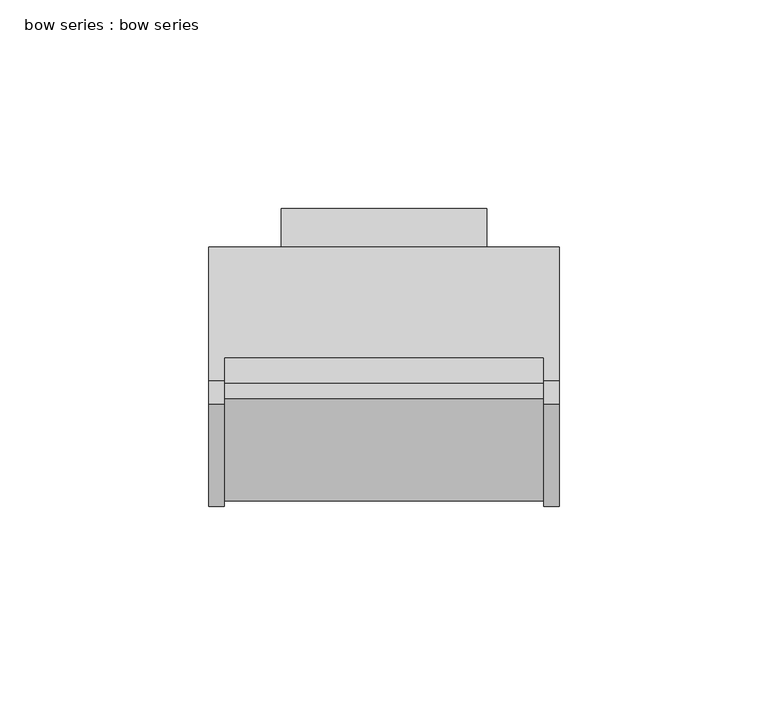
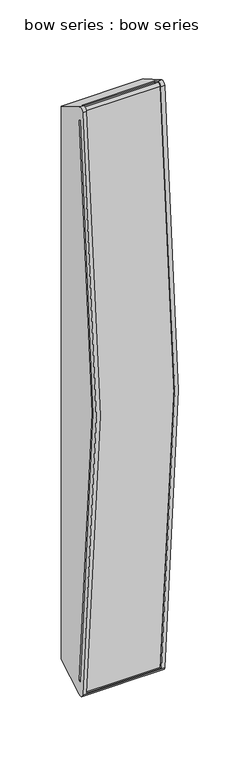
"""IFC4 building model written with IfcOpenShell, lengths in millimetres: light fixture geometry, bow series : bow series."""

import ifcopenshell
import ifcopenshell.guid

model = None  # the IFC model being written
_history = None  # IfcOwnerHistory: only IFC2X3 demands one
_inside = {}  # id of a spatial element -> (the spatial element, [elements in it])
_under = {}  # id of a project, library or spatial element -> (it, [spatial elements below it])
_declared = {}  # id of a project -> (the project, [libraries it declares])
_typed = {}  # id of a type object -> (the type object, [elements of that type])
_made_of = {}  # id of a material, layer set ... -> (it, [elements and type objects made of it])


def new_model(schema):
    """Start an empty IFC model of exactly this schema.

    Asked for "IFC4X3", IfcOpenShell would pick the latest addendum, in which some entities
    have other attributes; the version numbers below select the first issue.
    IFC2X3 requires an IfcOwnerHistory on every rooted entity: one is made here for all.
    """
    global model, _history
    if schema == "IFC4X3":
        model = ifcopenshell.file(schema_version=(4, 3, 0, 0))
    else:
        model = ifcopenshell.file(schema=schema)
    _inside.clear()
    _under.clear()
    _declared.clear()
    _typed.clear()
    _made_of.clear()
    _history = None
    if model.schema == "IFC2X3":
        org = make("IfcOrganization", Name="unknown")
        user = make(
            "IfcPersonAndOrganization",
            ThePerson=make("IfcPerson", FamilyName="unknown"),
            TheOrganization=org,
        )
        app = make(
            "IfcApplication",
            ApplicationDeveloper=org,
            Version="unknown",
            ApplicationFullName="unknown",
            ApplicationIdentifier="unknown",
        )
        _history = make(
            "IfcOwnerHistory",
            OwningUser=user,
            OwningApplication=app,
            ChangeAction="ADDED",
            CreationDate=0,
        )
    return model


def make(cls, **values):
    """One entity of the class cls with the attributes given. An attribute that is None is left unset."""
    return model.create_entity(
        cls, **{name: value for name, value in values.items() if value is not None}
    )


def rooted(cls, **values):
    """An entity with a GlobalId (a new one), such as an element, a storey or a relation."""
    return make(cls, GlobalId=ifcopenshell.guid.new(), OwnerHistory=_history, **values)


def si_unit(unit_type, name, prefix=None):
    """IfcSIUnit, for example si_unit("LENGTHUNIT", "METRE", prefix="MILLI")."""
    return make("IfcSIUnit", UnitType=unit_type, Prefix=prefix, Name=name)


def assignment(units):
    """IfcUnitAssignment: the units of a project."""
    return None if units is None else make("IfcUnitAssignment", Units=units)


def point(xyz):
    """IfcCartesianPoint."""
    return None if xyz is None else make("IfcCartesianPoint", Coordinates=xyz)


def direction(xyz):
    """IfcDirection."""
    return None if xyz is None else make("IfcDirection", DirectionRatios=xyz)


def frame(location, z_axis=None, x_axis=None):
    """IfcAxis2Placement3D, a coordinate frame: its origin and axes. An axis left out is left unset."""
    return make(
        "IfcAxis2Placement3D",
        Location=point(location),
        Axis=direction(z_axis),
        RefDirection=direction(x_axis),
    )


def frame_2d(location, x_axis=None):
    """IfcAxis2Placement2D, a coordinate frame in the plane: its origin and x axis."""
    return make(
        "IfcAxis2Placement2D", Location=point(location), RefDirection=direction(x_axis)
    )


def origin():
    """The frame at (0, 0, 0) with its axes left unset."""
    return frame((0.0, 0.0, 0.0))


def place(relative_to, where):
    """IfcLocalPlacement: puts the frame where relative to a parent placement (None: the world)."""
    return make(
        "IfcLocalPlacement", PlacementRelTo=relative_to, RelativePlacement=where
    )


def context(
    kind, dimensions, precision=None, world=None, true_north=None, identifier=None
):
    """IfcGeometricRepresentationContext, for example the 3D "Model" context."""
    return make(
        "IfcGeometricRepresentationContext",
        ContextIdentifier=identifier,
        ContextType=kind,
        CoordinateSpaceDimension=dimensions,
        Precision=precision,
        WorldCoordinateSystem=world,
        TrueNorth=true_north,
    )


def project(units=None, contexts=None):
    """IfcProject with its units and contexts."""
    return rooted(
        "IfcProject",
        Name="project",
        RepresentationContexts=contexts,
        UnitsInContext=assignment(units),
    )


def spatial(cls, under=None, at=None, **own):
    """A site, building, storey or space (cls), placed at a placement, below another one or the project."""
    s = rooted(cls, ObjectPlacement=at, **own)
    if under is not None:
        _under.setdefault(under.id(), (under, []))[1].append(s)
    return s


def polyline(points):
    """IfcPolyline through the points."""
    return make("IfcPolyline", Points=[point(p) for p in points])


def circle_curve(where, radius):
    """IfcCircle in the frame where."""
    return make("IfcCircle", Position=where, Radius=radius)


def trimmed(basis, trim1, trim2, sense, master):
    """IfcTrimmedCurve: the piece of a basis curve between two trims."""
    return make(
        "IfcTrimmedCurve",
        BasisCurve=basis,
        Trim1=trim1,
        Trim2=trim2,
        SenseAgreement=sense,
        MasterRepresentation=master,
    )


def segment(curve, same_sense, transition):
    """IfcCompositeCurveSegment."""
    return make(
        "IfcCompositeCurveSegment",
        Transition=transition,
        SameSense=same_sense,
        ParentCurve=curve,
    )


def composite_curve(segments, self_intersect=None):
    """IfcCompositeCurve: segments joined end to end."""
    return make("IfcCompositeCurve", Segments=segments, SelfIntersect=self_intersect)


def outline(outer, holes=None, kind="AREA"):
    """IfcArbitraryClosedProfileDef: a profile drawn as a closed curve; with holes, ...WithVoids."""
    if holes is None:
        return make("IfcArbitraryClosedProfileDef", ProfileType=kind, OuterCurve=outer)
    return make(
        "IfcArbitraryProfileDefWithVoids",
        ProfileType=kind,
        OuterCurve=outer,
        InnerCurves=holes,
    )


def extrude(swept, where, along, depth):
    """IfcExtrudedAreaSolid: the profile swept, set in the frame where, extruded along a direction by depth."""
    return make(
        "IfcExtrudedAreaSolid",
        SweptArea=swept,
        Position=where,
        ExtrudedDirection=direction(along),
        Depth=depth,
    )


def shape(context_of_items, identifier, shape_type, items):
    """IfcShapeRepresentation: the items that make up one representation, for example the "Body"."""
    return make(
        "IfcShapeRepresentation",
        ContextOfItems=context_of_items,
        RepresentationIdentifier=identifier,
        RepresentationType=shape_type,
        Items=items,
    )


def source(mapping_origin, context_of_items, identifier, shape_type, items):
    """IfcRepresentationMap: a shape defined once, which mapped items show again and again."""
    return make(
        "IfcRepresentationMap",
        MappingOrigin=mapping_origin,
        MappedRepresentation=shape(context_of_items, identifier, shape_type, items),
    )


def transform(
    local_origin,
    x_axis=None,
    y_axis=None,
    z_axis=None,
    scale=None,
    scale2=None,
    scale3=None,
    uniform=True,
):
    """IfcCartesianTransformationOperator3D, or its non-uniform kind. x_axis, y_axis, z_axis: its Axis1, 2, 3."""
    if uniform:
        return make(
            "IfcCartesianTransformationOperator3D",
            Axis1=direction(x_axis),
            Axis2=direction(y_axis),
            LocalOrigin=point(local_origin),
            Scale=scale,
            Axis3=direction(z_axis),
        )
    return make(
        "IfcCartesianTransformationOperator3DnonUniform",
        Axis1=direction(x_axis),
        Axis2=direction(y_axis),
        LocalOrigin=point(local_origin),
        Scale=scale,
        Axis3=direction(z_axis),
        Scale2=scale2,
        Scale3=scale3,
    )


def mapped(mapping_source, mapping_target):
    """IfcMappedItem: shows the shape of a source again, moved by a transform."""
    return make(
        "IfcMappedItem", MappingSource=mapping_source, MappingTarget=mapping_target
    )


def made_of(thing, what):
    """Note that an element or type object is made of a material, layer set ...; save() writes the relation."""
    if what is not None:
        _made_of.setdefault(what.id(), (what, []))[1].append(thing)
    return thing


def element(
    cls,
    number,
    at=None,
    inside=None,
    cuts=None,
    type_object=None,
    material=None,
    context=None,
    identifier="Body",
    shape_type=None,
    held_by="IfcProductDefinitionShape",
    body=None,
    shapes=None,
    **own,
):
    """One element of the class cls, such as IfcWall. Its Tag is "e" and its number.

    at: its placement. inside: the storey or other place that contains it. cuts: it is an
    opening in that element (IfcRelVoidsElement). A single representation is given by context,
    identifier, shape_type and body (its items); several are given by shapes. held_by: the class
    of the entity that holds the representations. save() writes the other relations.
    """
    e = rooted(cls, Tag="e%d" % number, ObjectPlacement=at, **own)
    if body is not None:
        shapes = [shape(context, identifier, shape_type, body)]
    if shapes is not None:
        e.Representation = make(held_by, Representations=shapes)
    if inside is not None:
        _inside.setdefault(inside.id(), (inside, []))[1].append(e)
    if cuts is not None:
        rooted(
            "IfcRelVoidsElement", RelatingBuildingElement=cuts, RelatedOpeningElement=e
        )
    if type_object is not None:
        _typed.setdefault(type_object.id(), (type_object, []))[1].append(e)
    return made_of(e, material)


def aggregate(whole, parts):
    """IfcRelAggregates: a whole, such as a stair, and the parts it consists of."""
    return rooted("IfcRelAggregates", RelatingObject=whole, RelatedObjects=parts)


def save(model, path):
    """Write the relations noted so far, then the file.

    IfcRelAggregates (storeys below a building ...), IfcRelContainedInSpatialStructure (elements
    in a storey), IfcRelDefinesByType, IfcRelAssociatesMaterial and IfcRelDeclares: one each for
    every whole, place, type object, material and project.
    """
    for whole, parts in _under.values():
        aggregate(whole, parts)
    for where, things in _inside.values():
        rooted(
            "IfcRelContainedInSpatialStructure",
            RelatedElements=things,
            RelatingStructure=where,
        )
    for kind, things in _typed.values():
        rooted("IfcRelDefinesByType", RelatedObjects=things, RelatingType=kind)
    for what, things in _made_of.values():
        rooted("IfcRelAssociatesMaterial", RelatedObjects=things, RelatingMaterial=what)
    for by, libraries in _declared.values():
        rooted("IfcRelDeclares", RelatingContext=by, RelatedDefinitions=libraries)
    model.write(path)


def plane_surface(at):
    """IfcPlane: the flat surface through the origin of the frame at, square to its z axis."""
    return make("IfcPlane", Position=at)


def cylinder_surface(at, radius):
    """IfcCylindricalSurface: all points at the distance radius from the z axis of the frame at."""
    return make("IfcCylindricalSurface", Position=at, Radius=radius)


def revolved_surface(curve, axis_point, axis_direction):
    """IfcSurfaceOfRevolution: the curve turned about the line through axis_point along axis_direction."""
    return make(
        "IfcSurfaceOfRevolution",
        SweptCurve=make("IfcArbitraryOpenProfileDef", ProfileType="CURVE", Curve=curve),
        AxisPosition=make("IfcAxis1Placement", Location=point(axis_point), Axis=direction(axis_direction)),
    )


def advanced_brep(points, edges, surfaces, faces):
    """IfcAdvancedBrep: a solid bounded by faces that lie on surfaces and meet in shared edges.

    An edge is (start, end): straight between two places in points (the first is 0);
    or (start, end, curve); or (start, end, curve, False) where it runs against its curve.
    A face is (place in surfaces, loops), or (place, loops, False) where it looks against
    its surface's normal. A loop lists edges by number (the first is 1), with a minus sign
    where the edge is run from its end to its start. The first loop is the outer one.
    """
    corners = [point(p) for p in points]
    vertices = [make("IfcVertexPoint", VertexGeometry=c) for c in corners]
    made = []
    for start, end, *more in edges:
        made.append(
            make(
                "IfcEdgeCurve",
                EdgeStart=vertices[start],
                EdgeEnd=vertices[end],
                EdgeGeometry=more[0] if more else make("IfcPolyline", Points=[corners[start], corners[end]]),
                SameSense=more[1] if len(more) > 1 else True,
            )
        )
    hull = []
    for where, loops, *sense in faces:
        bounds = []
        for j, loop in enumerate(loops):
            ring = [make("IfcOrientedEdge", EdgeElement=made[abs(k) - 1], Orientation=k > 0) for k in loop]
            bounds.append(
                make(
                    "IfcFaceOuterBound" if j == 0 else "IfcFaceBound",
                    Bound=make("IfcEdgeLoop", EdgeList=ring),
                    Orientation=True,
                )
            )
        hull.append(make("IfcAdvancedFace", Bounds=bounds, FaceSurface=surfaces[where], SameSense=sense[0] if sense else True))
    return make("IfcAdvancedBrep", Outer=make("IfcClosedShell", CfsFaces=hull))


def bow_series_bow_series_fd234733(model_context):
    return source(origin(), model_context, "Body", "SolidModel", [
        advanced_brep(
        [(42.0751, -11.1897354, 3.2218824), (42.0751, -5.5204004, 0.5104432), (42.0751, 26.4804679, 18.9861531), (42.0751, 26.4804679, 619.4369441), (42.0751, -5.5204004, 637.912654), (42.0751, -11.1897354, 635.2012148), (42.0751, -6.5132038, 623.8211525), (42.0751, -5.1339014, 623.0248118), (42.0751, -5.1339014, 15.3982854), (42.0751, -6.5132038, 14.6019447), (-42.0751, -11.1897354, 3.2218824), (-42.0751, -11.1897354, 635.2012148), (-42.0751, -5.5204004, 637.912654), (-42.0751, 26.4804679, 619.4369441), (-42.0751, 26.4804679, 18.9861531), (-42.0751, -5.5204004, 0.5104432), (-42.0751, -6.5132038, 623.8211525), (-42.0751, -6.5132038, 14.6019447), (-42.0751, -5.1339014, 15.3982854), (-42.0751, -5.1339014, 623.0248118), (-38.2651, -5.5204004, 637.912654), (-38.2651, 0.0, 634.7254494), (38.2651, 0.0, 634.7254494), (38.2651, -5.5204004, 637.912654), (38.2651, -11.1897354, 635.2012148), (-38.2651, -11.1897354, 635.2012148), (38.2651, -11.3328641, 4.1393634), (-38.2651, -11.3328641, 4.1393634), (38.2651, -6.5132038, 623.8211525), (38.2651, -5.1339014, 623.0248118), (-38.2651, -5.1339014, 623.0248118), (-38.2651, -6.5132038, 623.8211525), (38.2651, -5.1339014, 15.3982854), (-38.2651, -5.1339014, 15.3982854), (38.2651, -6.5132038, 14.6019447), (-38.2651, -6.5132038, 14.6019447), (38.2651, 20.1304679, 18.2529183), (38.2651, 0.0, 6.6305873), (38.2651, 0.0, 4.1393634), (38.2651, 0.0, 631.79251), (38.2651, 20.1304679, 620.1701789), (-38.2651, 20.1304679, 18.2529183), (-38.2651, 20.1304679, 620.1701789), (-38.2651, 0.0, 631.79251), (-38.2651, 0.0, 4.1393634), (-38.2651, 0.0, 6.6305873)],
        [
            (0, 1, circle_curve(frame((42.0751, -7.4254004, 3.81), z_axis=(1.0, 0.0, 0.0), x_axis=(0.0, 1.0, 0.0)), 3.81)),
            (1, 2),
            (2, 3),
            (3, 4),
            (4, 5, circle_curve(frame((42.0751, -7.4254004, 634.6130972), z_axis=(1.0, 0.0, 0.0), x_axis=(0.0, 1.0, 0.0)), 3.81)),
            (5, 0, circle_curve(frame((42.0751, 2011.3497016, 319.2115486), z_axis=(1.0, 0.0, 0.0), x_axis=(0.0, 1.0, 0.0)), 2047.0748016)),
            (6, 7),
            (7, 8, circle_curve(frame((42.0751, 2008.9960373, 319.2115486), z_axis=(1.0, 0.0, 0.0), x_axis=(0.0, 1.0, 0.0)), 2036.9148016)),
            (8, 9),
            (9, 6, circle_curve(frame((42.0751, 2011.3497016, 319.2115486), z_axis=(-1.0, 0.0, 0.0), x_axis=(0.0, 1.0, 0.0)), 2040.7248016)),
            (10, 11, circle_curve(frame((-42.0751, 2011.3497016, 319.2115486), z_axis=(-1.0, 0.0, 0.0), x_axis=(0.0, 1.0, 0.0)), 2047.0748016)),
            (11, 12, circle_curve(frame((-42.0751, -7.4254004, 634.6130972), z_axis=(-1.0, 0.0, 0.0), x_axis=(0.0, 1.0, 0.0)), 3.81)),
            (12, 13),
            (13, 14),
            (14, 15),
            (15, 10, circle_curve(frame((-42.0751, -7.4254004, 3.81), z_axis=(-1.0, 0.0, 0.0), x_axis=(0.0, 1.0, 0.0)), 3.81)),
            (16, 17, circle_curve(frame((-42.0751, 2011.3497016, 319.2115486), z_axis=(1.0, 0.0, 0.0), x_axis=(0.0, 1.0, 0.0)), 2040.7248016)),
            (17, 18),
            (18, 19, circle_curve(frame((-42.0751, 2008.9960373, 319.2115486), z_axis=(-1.0, 0.0, 0.0), x_axis=(0.0, 1.0, 0.0)), 2036.9148016)),
            (19, 16),
            (0, 10),
            (15, 1),
            (14, 2),
            (13, 3),
            (12, 20),
            (20, 21),
            (21, 22),
            (22, 23),
            (23, 4),
            (23, 24, circle_curve(frame((38.2651, -7.4254004, 634.6130972), z_axis=(1.0, 0.0, 0.0), x_axis=(0.0, 1.0, 0.0)), 3.81)),
            (24, 5),
            (11, 25),
            (25, 20, circle_curve(frame((-38.2651, -7.4254004, 634.6130972), z_axis=(-1.0, 0.0, 0.0), x_axis=(0.0, 1.0, 0.0)), 3.81)),
            (24, 26, circle_curve(frame((38.2651, 2011.3497016, 319.2115486), z_axis=(1.0, 0.0, 0.0), x_axis=(0.0, 1.0, 0.0)), 2047.0748016)),
            (26, 27),
            (27, 25, circle_curve(frame((-38.2651, 2011.3497016, 319.2115486), z_axis=(-1.0, 0.0, 0.0), x_axis=(0.0, 1.0, 0.0)), 2047.0748016)),
            (6, 28),
            (28, 29),
            (29, 7),
            (19, 30),
            (30, 31),
            (31, 16),
            (29, 32, circle_curve(frame((38.2651, 2008.9960373, 319.2115486), z_axis=(1.0, 0.0, 0.0), x_axis=(0.0, 1.0, 0.0)), 2036.9148016)),
            (32, 8),
            (18, 33),
            (33, 30, circle_curve(frame((-38.2651, 2008.9960373, 319.2115486), z_axis=(-1.0, 0.0, 0.0), x_axis=(0.0, 1.0, 0.0)), 2036.9148016)),
            (32, 34),
            (34, 9),
            (17, 35),
            (35, 33),
            (34, 28, circle_curve(frame((38.2651, 2011.3497016, 319.2115486), z_axis=(-1.0, 0.0, 0.0), x_axis=(0.0, 1.0, 0.0)), 2040.7248016)),
            (31, 35, circle_curve(frame((-38.2651, 2011.3497016, 319.2115486), z_axis=(1.0, 0.0, 0.0), x_axis=(0.0, 1.0, 0.0)), 2040.7248016)),
            (36, 37),
            (37, 38),
            (38, 26),
            (22, 39),
            (39, 40),
            (40, 36),
            (41, 42),
            (42, 43),
            (43, 21),
            (27, 44),
            (44, 45),
            (45, 41),
            (40, 42),
            (41, 36),
            (39, 43),
            (38, 44),
            (37, 45),
        ],
        [
            plane_surface(frame((42.0751, -3.6154004, 3.81), z_axis=(1.0, 0.0, 0.0), x_axis=(0.0, 0.0, 1.0))),
            plane_surface(frame((-42.0751, -3.6154004, 3.81), z_axis=(-1.0, 0.0, 0.0), x_axis=(0.0, 0.0, -1.0))),
            cylinder_surface(frame((-42.0751, -7.4254004, 3.81), z_axis=(1.0, 0.0, 0.0), x_axis=(0.0, 1.0, 0.0)), 3.81),
            plane_surface(frame((42.0751, -5.5204004, 0.5104432), z_axis=(0.0, 0.4999999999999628, -0.8660254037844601), x_axis=(-1.0, 0.0, 0.0))),
            plane_surface(frame((42.0751, 26.4804679, 18.9861531), z_axis=(0.0, 1.0, 0.0), x_axis=(-1.0, 0.0, 0.0))),
            plane_surface(frame((42.0751, 26.4804679, 619.4369441), z_axis=(0.0, 0.5000000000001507, 0.8660254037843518), x_axis=(-1.0, 0.0, 0.0))),
            cylinder_surface(frame((-42.0751, -7.4254004, 634.6130972), z_axis=(1.0, 0.0, 0.0), x_axis=(0.0, 1.0, 0.0)), 3.81),
            cylinder_surface(frame((-42.0751, 2011.3497016, 319.2115486), z_axis=(1.0, 0.0, 0.0), x_axis=(0.0, 1.0, 0.0)), 2047.0748016),
            plane_surface(frame((42.0751, -6.5132038, 623.8211525), z_axis=(0.0, -0.49999999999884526, -0.8660254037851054), x_axis=(-1.0, 0.0, 0.0))),
            cylinder_surface(frame((0.0, 2008.9960373, 319.2115486), z_axis=(1.0, 0.0, 0.0), x_axis=(0.0, 1.0, 0.0)), 2036.9148016),
            plane_surface(frame((42.0751, -5.1339014, 15.3982854), z_axis=(0.0, -0.5000000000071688, 0.8660254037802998), x_axis=(-1.0, 0.0, 0.0))),
            revolved_surface(polyline([(38.2651, 4052.0745032, 319.2115486), (42.0751, 4052.0745032, 319.2115486)]), (0.0, 2011.3497016, 319.2115486), (-1.0, 0.0, 0.0)),
            revolved_surface(polyline([(-42.0751, 4052.0745032, 319.2115486), (-38.2651, 4052.0745032, 319.2115486)]), (0.0, 2011.3497016, 319.2115486), (-1.0, 0.0, 0.0)),
            plane_surface(frame((38.2651, 20.1304679, 620.1701789), z_axis=(-1.0, 0.0, 0.0), x_axis=(0.0, 0.0, 1.0))),
            plane_surface(frame((-38.2651, 20.1304679, 620.1701789), z_axis=(1.0, 0.0, 0.0), x_axis=(0.0, 0.0, -1.0))),
            plane_surface(frame((38.2651, 20.1304679, 18.2529183), z_axis=(0.0, -1.0, 0.0), x_axis=(-1.0, 0.0, 0.0))),
            plane_surface(frame((38.2651, 20.1304679, 620.1701789), z_axis=(0.0, -0.4999999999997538, -0.8660254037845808), x_axis=(-1.0, 0.0, 0.0))),
            plane_surface(frame((38.2651, 0.0, 631.79251), z_axis=(0.0, -1.0, 0.0), x_axis=(-1.0, 0.0, 0.0))),
            plane_surface(frame((38.2651, -43.3695321, 4.1393634), z_axis=(0.0, 0.0, 1.0), x_axis=(-1.0, 0.0, 0.0))),
            plane_surface(frame((38.2651, 0.0, 4.1393634), z_axis=(0.0, -1.0, 0.0), x_axis=(-1.0, 0.0, 0.0))),
            plane_surface(frame((38.2651, 0.0, 6.6305873), z_axis=(0.0, -0.49999999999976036, 0.866025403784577), x_axis=(-1.0, 0.0, 0.0))),
        ],
        [
            (0, [[1, 2, 3, 4, 5, 6], [7, 8, 9, 10]]),
            (1, [[11, 12, 13, 14, 15, 16], [17, 18, 19, 20]]),
            (2, [[-1, 21, -16, 22]]),
            (3, [[-2, -22, -15, 23]]),
            (4, [[-3, -23, -14, 24]]),
            (5, [[-4, -24, -13, 25, 26, 27, 28, 29]]),
            (6, [[-5, -29, 30, 31]]),
            (6, [[-12, 32, 33, -25]]),
            (7, [[-6, -31, 34, 35, 36, -32, -11, -21]]),
            (8, [[-7, 37, 38, 39]]),
            (8, [[-20, 40, 41, 42]]),
            (9, [[-8, -39, 43, 44]]),
            (9, [[-19, 45, 46, -40]]),
            (10, [[-9, -44, 47, 48]]),
            (10, [[-18, 49, 50, -45]]),
            (11, [[-10, -48, 51, -37]]),
            (12, [[-17, -42, 52, -49]]),
            (13, [[53, 54, 55, -34, -30, -28, 56, 57, 58], [-38, -51, -47, -43]]),
            (14, [[59, 60, 61, -26, -33, -36, 62, 63, 64], [-41, -46, -50, -52]]),
            (15, [[-58, 65, -59, 66]]),
            (16, [[-57, 67, -60, -65]]),
            (17, [[-67, -56, -27, -61]]),
            (18, [[68, -62, -35, -55]]),
            (19, [[-54, 69, -63, -68]]),
            (20, [[-53, -66, -64, -69]]),
        ],
    ),
        extrude(outline(polyline([(35.7251, 27.2564834), (26.4804679, 21.9190925), (26.4804679, 616.5040047), (35.7251, 611.1666139), (35.7251, 27.2564834)])), frame((-24.5999, 0.0, 0.0), z_axis=(1.0, 0.0, 0.0), x_axis=(0.0, 1.0, 0.0)), (0.0, 0.0, 1.0), 49.1998),
        extrude(outline(composite_curve([segment(polyline([(0.0, 633.2589797), (0.0, 631.79251), (-6.7904004, 635.7129495)]), True, "CONTINUOUS"), segment(trimmed(circle_curve(frame_2d((-7.4254004, 634.6130972)), 1.27), [point((-6.7904004, 635.7129495))], [point((-8.6801788, 634.8091364))], True, "CARTESIAN"), True, "CONTINUOUS"), segment(trimmed(circle_curve(frame_2d((2011.3497016, 319.2115486)), 2044.5348016), [point((-8.6801788, 634.8091364))], [point((-8.6801788, 3.6139608))], True, "CARTESIAN"), True, "CONTINUOUS"), segment(trimmed(circle_curve(frame_2d((-7.4254004, 3.81)), 1.27), [point((-8.6801788, 3.6139608))], [point((-6.7904004, 2.7101477))], True, "CARTESIAN"), True, "CONTINUOUS"), segment(polyline([(-6.7904004, 2.7101477), (0.0, 6.6305873), (0.0, 5.1641176), (-6.1554004, 1.6102955)]), True, "CONTINUOUS"), segment(trimmed(circle_curve(frame_2d((-7.4254004, 3.81)), 2.54), [point((-6.1554004, 1.6102955))], [point((-9.9349571, 3.4179216))], False, "CARTESIAN"), True, "CONTINUOUS"), segment(trimmed(circle_curve(frame_2d((2011.3497016, 319.2115486)), 2045.8048016), [point((-9.9349571, 3.4179216))], [point((-9.9349571, 635.0051756))], False, "CARTESIAN"), True, "CONTINUOUS"), segment(trimmed(circle_curve(frame_2d((-7.4254004, 634.6130972)), 2.54), [point((-9.9349571, 635.0051756))], [point((-6.1554004, 636.8128018))], False, "CARTESIAN"), True, "CONTINUOUS"), segment(polyline([(-6.1554004, 636.8128018), (0.0, 633.2589797)]), True, "CONTINUOUS")], self_intersect=False)), frame((-38.2651, 0.0, 0.0), z_axis=(1.0, 0.0, 0.0), x_axis=(0.0, 1.0, 0.0)), (0.0, 0.0, 1.0), 76.5302),
    ])


if __name__ == "__main__":
    model = new_model("IFC4")
    model_context = context("Model", 3, world=origin())
    ifc_project = project(units=[si_unit("LENGTHUNIT", "METRE", prefix="MILLI")], contexts=[model_context])
    site = spatial("IfcSite", under=ifc_project)
    building = spatial("IfcBuilding", under=site)
    placement = place(None, origin())
    bow_series_bow_series_shape = bow_series_bow_series_fd234733(model_context)
    element("IfcLightFixture", 1, ObjectType="bow series : bow series", at=placement, inside=building, context=model_context, shape_type="MappedRepresentation", body=[
        mapped(bow_series_bow_series_shape, transform((0.0, 0.0, 0.0), x_axis=(1.0, 0.0, 0.0), y_axis=(0.0, 1.0, 0.0), z_axis=(0.0, 0.0, 1.0))),
    ])
    save(model, "model.ifc")
